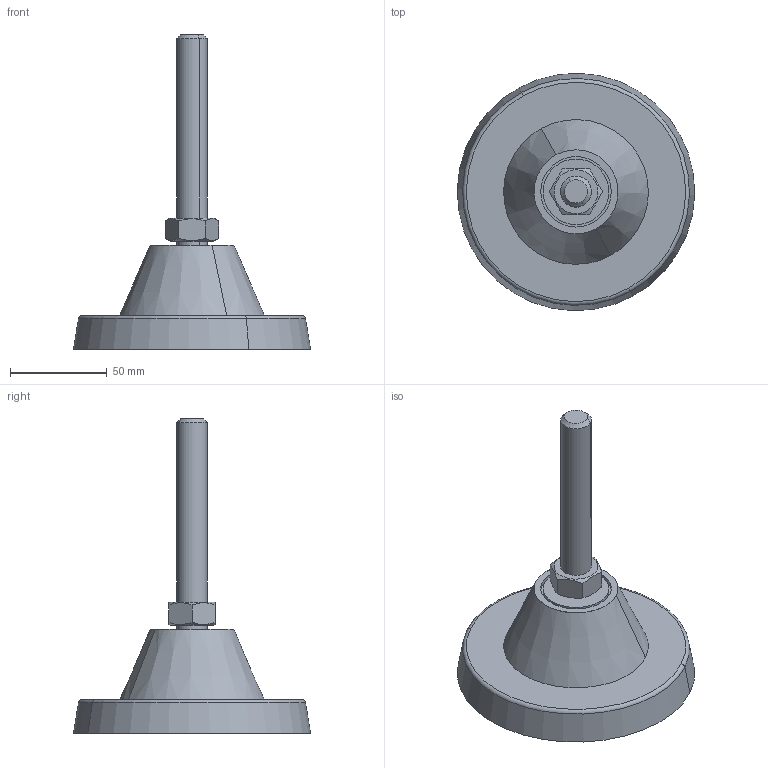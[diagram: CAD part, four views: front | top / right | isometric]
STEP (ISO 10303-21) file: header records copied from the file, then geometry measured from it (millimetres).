
FILE_DESCRIPTION(('CATIA V5 STEP Exchange'),'2;1');
FILE_NAME('C:\Users\ALI OZGUN\Desktop\alhan\ARTICULATED_FEET-PABUCLAR\502121615.stp','2017-09-08T06:28:23+00:00',('none'),('none'),'CATIA Version 5 Release 21 GA (IN-10)','CATIA V5 STEP AP203','none');
FILE_SCHEMA(('CONFIG_CONTROL_DESIGN'));
Length unit declared in the file: millimetre
Products named in the file (1): 502121615
Bounding box: 122.97 x 122.97 x 163 mm (x, y, z)
Volume: 188109.2 mm3; surface area: 69228.2 mm2
Topology: 3 solids, 3 shells, 127 faces, 330 edges, 216 vertices
Faces by surface type: plane 61, cylinder 32, cone 30, torus 2, sphere 2
Entity records: 3851 total; most frequent: CARTESIAN_POINT 1199, ORIENTED_EDGE 660, DIRECTION 330, EDGE_CURVE 330, VERTEX_POINT 216, AXIS2_PLACEMENT_3D 168, EDGE_LOOP 138, ADVANCED_FACE 127
